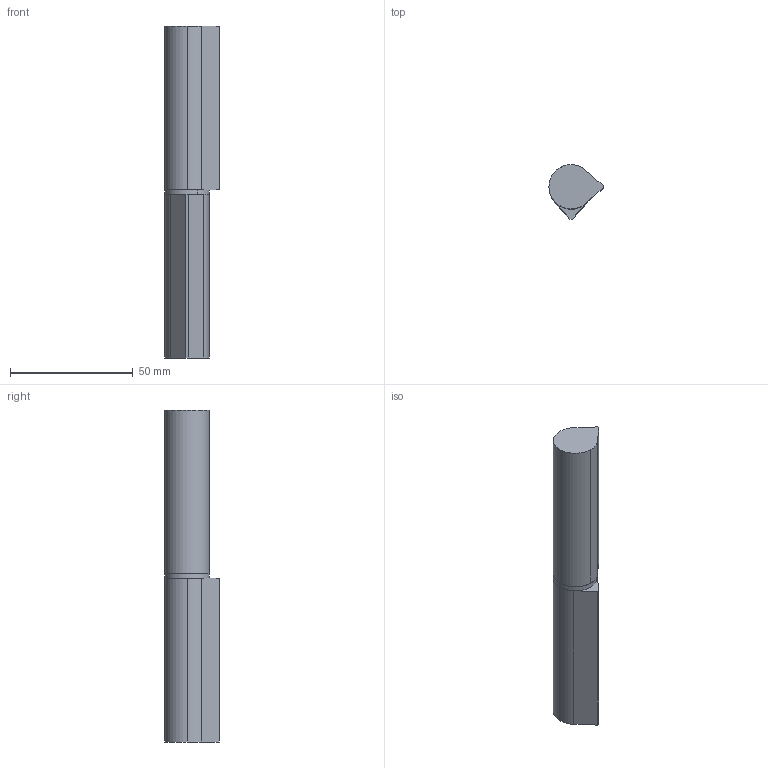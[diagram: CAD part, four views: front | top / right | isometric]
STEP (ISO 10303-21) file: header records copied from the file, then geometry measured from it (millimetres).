
FILE_DESCRIPTION (( 'STEP AP214' ), '1' );
FILE_NAME ('3.ST7-2.005.STEP', '2016-09-09T09:31:45', ( '' ), ( '' ), 'SwSTEP 2.0', 'SolidWorks 2015', '' );
FILE_SCHEMA (( 'AUTOMOTIVE_DESIGN' ));
Length unit declared in the file: millimetre
Products named in the file (4): 3.ST7-1.005.02_A; 3.ST7-2.005.01_A; 3.ST7-2.005; 3.ST7-1.005.03_A
Assembly tree (4 placements, depth 2):
  3.ST7-2.005
    3.ST7-2.005.01_A  x2
    3.ST7-1.005.02_A
    3.ST7-1.005.03_A
Bounding box: 22 x 22 x 135 mm (x, y, z)
Volume: 36336.1 mm3; surface area: 14262.3 mm2
Topology: 4 solids, 4 shells, 86 faces, 180 edges, 114 vertices
Faces by surface type: plane 42, cylinder 32, cone 12
Entity records: 2088 total; most frequent: DIRECTION 392, CARTESIAN_POINT 320, ORIENTED_EDGE 292, AXIS2_PLACEMENT_3D 167, EDGE_CURVE 146, VERTEX_POINT 95, EDGE_LOOP 89, CIRCLE 88
